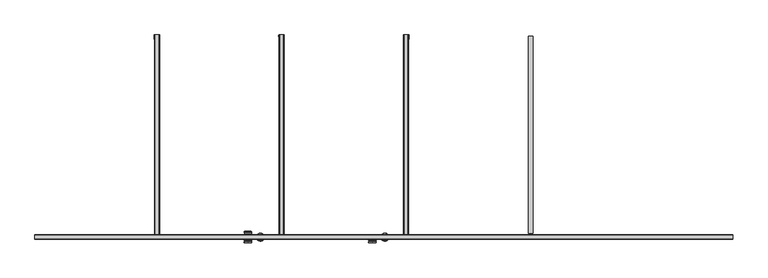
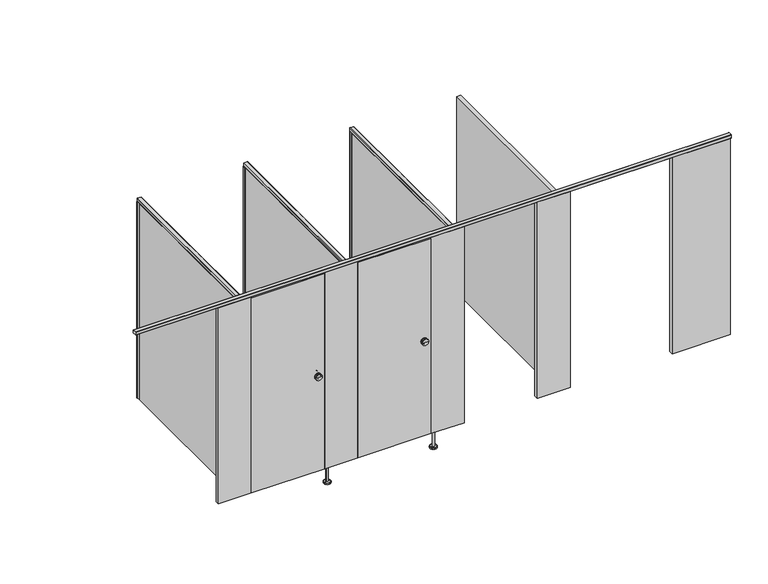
"""IFC4 building model written with IfcOpenShell, lengths in millimetres: proxy geometry, Partition_EuroStyle-Bradley_Corp-ADA-4StandardStall-NEP-LOFT : Partition_EuroStyle-Bradley_Corp-ADA-4StandardStall-NEP-LOFT."""

from ifc_helpers import new_model, si_unit, point, frame, frame_2d, origin, place, context, project, spatial, polyline, circle_curve, ellipse_curve, trimmed, segment, composite_curve, outline, extrude, source, transform, mapped, element, save
from ifc_brep_helpers import plane_surface, cylinder_surface, revolved_surface, advanced_brep


def specialty_equipment_0840d314(model_context):
    return source(origin(), model_context, "Body", "SolidModel", [
        advanced_brep(
        [(2449.4201766, -1560.0098174, 1050.0), (2477.9951766, -1560.0098174, 1050.0), (2420.8451766, -1560.0098174, 1050.0), (2477.9951766, -1564.7723174, 1050.0), (2420.8451766, -1564.7723174, 1050.0), (2420.8451766, -1579.0598174, 1050.0), (2477.9951766, -1579.0598174, 1050.0), (2477.9951766, -1583.8223174, 1050.0), (2420.8451766, -1583.8223174, 1050.0), (2422.4326766, -1577.4723174, 1050.0), (2476.4076766, -1577.4723174, 1050.0), (2422.4326766, -1566.3598174, 1050.0), (2476.4076766, -1566.3598174, 1050.0), (2449.4201766, -1585.4098174, 1050.0)],
        [
            (0, 1),
            (1, 2, circle_curve(frame((2449.4201766, -1560.0098174, 1050.0), z_axis=(0.0, 1.0, 0.0), x_axis=(1.0000000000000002, 0.0, 0.0)), 28.575)),
            (2, 0),
            (2, 1, circle_curve(frame((2449.4201766, -1560.0098174, 1050.0), z_axis=(0.0, 1.0, 0.0), x_axis=(1.0000000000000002, 0.0, 0.0)), 28.575)),
            (1, 3),
            (3, 4, circle_curve(frame((2449.4201766, -1564.7723174, 1050.0), z_axis=(0.0, 1.0, 0.0), x_axis=(1.0000000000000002, 0.0, 0.0)), 28.575)),
            (4, 2),
            (4, 3, circle_curve(frame((2449.4201766, -1564.7723174, 1050.0), z_axis=(0.0, 1.0, 0.0), x_axis=(1.0000000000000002, 0.0, 0.0)), 28.575)),
            (5, 6, circle_curve(frame((2449.4201766, -1579.0598174, 1050.0), z_axis=(0.0, -1.0, 0.0), x_axis=(1.0000000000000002, 0.0, 0.0)), 28.575)),
            (6, 7),
            (7, 8, circle_curve(frame((2449.4201766, -1583.8223174, 1050.0), z_axis=(0.0, 1.0, 0.0), x_axis=(1.0000000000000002, 0.0, 0.0)), 28.575)),
            (8, 5),
            (6, 5, circle_curve(frame((2449.4201766, -1579.0598174, 1050.0), z_axis=(0.0, -1.0, 0.0), x_axis=(1.0000000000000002, 0.0, 0.0)), 28.575)),
            (8, 7, circle_curve(frame((2449.4201766, -1583.8223174, 1050.0), z_axis=(0.0, 1.0, 0.0), x_axis=(1.0000000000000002, 0.0, 0.0)), 28.575)),
            (9, 10, circle_curve(frame((2449.4201766, -1577.4723174, 1050.0), z_axis=(0.0, -1.0, 0.0), x_axis=(1.0000000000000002, 0.0, 0.0)), 26.9875)),
            (10, 6, circle_curve(frame((2477.9951766, -1577.4723174, 1050.0), z_axis=(0.0, 0.0, 1.0), x_axis=(1.0000000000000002, 0.0, 0.0)), 1.5875)),
            (5, 9, circle_curve(frame((2420.8451766, -1577.4723174, 1050.0), z_axis=(0.0, 0.0, 1.0), x_axis=(-1.0000000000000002, 0.0, 0.0)), 1.5875)),
            (10, 9, circle_curve(frame((2449.4201766, -1577.4723174, 1050.0), z_axis=(0.0, -1.0, 0.0), x_axis=(1.0000000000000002, 0.0, 0.0)), 26.9875)),
            (11, 12, circle_curve(frame((2449.4201766, -1566.3598174, 1050.0), z_axis=(0.0, -1.0, 0.0), x_axis=(1.0000000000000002, 0.0, 0.0)), 26.9875)),
            (12, 10),
            (9, 11),
            (12, 11, circle_curve(frame((2449.4201766, -1566.3598174, 1050.0), z_axis=(0.0, -1.0, 0.0), x_axis=(1.0000000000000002, 0.0, 0.0)), 26.9875)),
            (3, 12, circle_curve(frame((2477.9951766, -1566.3598174, 1050.0), z_axis=(0.0, 0.0, 1.0), x_axis=(1.0000000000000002, 0.0, 0.0)), 1.5875)),
            (11, 4, circle_curve(frame((2420.8451766, -1566.3598174, 1050.0), z_axis=(0.0, 0.0, 1.0), x_axis=(-1.0000000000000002, 0.0, 0.0)), 1.5875)),
            (7, 13, circle_curve(frame((2453.1143, -1393.9352882, 1050.0), z_axis=(0.0, 0.0, -1.0), x_axis=(1.0000000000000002, 0.0, 0.0)), 191.5101613)),
            (13, 8, circle_curve(frame((2445.7260533, -1393.9352882, 1050.0), z_axis=(0.0, 0.0, -1.0), x_axis=(-1.0000000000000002, 0.0, 0.0)), 191.5101613)),
        ],
        [
            plane_surface(frame((2449.4201766, -1560.0098174, 1050.0), z_axis=(0.0, 1.0, 0.0), x_axis=(1.0, 0.0, 0.0))),
            cylinder_surface(frame((2449.4201766, -1560.0098174, 1050.0), z_axis=(0.0, 1.0000000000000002, 0.0), x_axis=(1.0000000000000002, 0.0, 0.0)), 28.575),
            revolved_surface(trimmed(ellipse_curve(frame((2477.9951766, -1577.4723174, 1050.0), z_axis=(0.0, 0.0, -1.0), x_axis=(1.0000000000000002, 0.0, 0.0)), 1.5875, 1.5875), [point((2477.9951766, -1579.0598174, 1050.0))], [point((2476.4076766, -1577.4723174, 1050.0))], True, "CARTESIAN"), (2449.4201766, -1560.0098174, 1050.0), (0.0, 1.0000000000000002, 0.0)),
            cylinder_surface(frame((2449.4201766, -1560.0098174, 1050.0), z_axis=(0.0, 1.0000000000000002, 0.0), x_axis=(1.0000000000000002, 0.0, 0.0)), 26.9875),
            revolved_surface(trimmed(ellipse_curve(frame((2477.9951766, -1566.3598174, 1050.0), z_axis=(0.0, 0.0, -1.0), x_axis=(1.0000000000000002, 0.0, 0.0)), 1.5875, 1.5875), [point((2476.4076766, -1566.3598174, 1050.0))], [point((2477.9951766, -1564.7723174, 1050.0))], True, "CARTESIAN"), (2449.4201766, -1560.0098174, 1050.0), (0.0, 1.0000000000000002, 0.0)),
            revolved_surface(trimmed(ellipse_curve(frame((2453.1143, -1393.9352882, 1050.0), z_axis=(0.0, 0.0, 1.0), x_axis=(1.0000000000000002, 0.0, 0.0)), 191.5101613, 191.5101613), [point((2449.4201766, -1585.4098174, 1050.0))], [point((2477.9951766, -1583.8223174, 1050.0))], True, "CARTESIAN"), (2449.4201766, -1560.0098174, 1050.0), (0.0, 1.0000000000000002, 0.0)),
        ],
        [
            (0, [[1, 2, 3]]),
            (0, [[-3, 4, -1]]),
            (1, [[-2, 5, 6, 7]]),
            (1, [[-4, -7, 8, -5]]),
            (1, [[9, 10, 11, 12]]),
            (1, [[13, -12, 14, -10]]),
            (2, [[15, 16, -9, 17]]),
            (2, [[18, -17, -13, -16]]),
            (3, [[19, 20, -15, 21]]),
            (3, [[22, -21, -18, -20]]),
            (4, [[-6, 23, -19, 24]]),
            (4, [[-8, -24, -22, -23]]),
            (5, [[-11, 25, 26]]),
            (5, [[-14, -26, -25]]),
        ],
    ),
        extrude(outline(polyline([(1857.8170903, -1523.9894923), (2512.9201766, -1523.9894923), (2512.9201766, -1560.0098174), (1857.8170903, -1560.0098174), (1857.8170903, -1523.9894923)])), frame((0.0, 0.0, 150.0), z_axis=(0.0, 0.0, 1.0), x_axis=(1.0, 0.0, 0.0)), (0.0, 0.0, 1.0), 1846.0),
        extrude(outline(composite_curve([segment(polyline([(2685.7288796, -32.5000002), (2685.2205405, -2.02918)]), True, "CONTINUOUS"), segment(trimmed(circle_curve(frame_2d((2687.2497205, -2.02918)), 2.02918), [point((2685.2205405, -2.02918))], [point((2687.2497205, 0.0))], False, "CARTESIAN"), True, "CONTINUOUS"), segment(polyline([(2687.2497205, 0.0), (2725.1909298, 0.0)]), True, "CONTINUOUS"), segment(trimmed(circle_curve(frame_2d((2725.1909298, -2.02918)), 2.02918), [point((2725.1909298, 0.0))], [point((2727.2201098, -2.02918))], False, "CARTESIAN"), True, "CONTINUOUS"), segment(polyline([(2727.2201098, -2.02918), (2726.7117707, -32.5000002), (2725.2131851, -32.5000002)]), True, "CONTINUOUS"), segment(trimmed(circle_curve(frame_2d((2725.2167525, -31.5009082)), 0.9990984), [point((2725.2131851, -32.5000002))], [point((2724.7430999, -30.6212202))], False, "CARTESIAN"), True, "CONTINUOUS"), segment(polyline([(2724.7430999, -30.6212202), (2724.8642099, -23.3575702)]), True, "CONTINUOUS"), segment(trimmed(circle_curve(frame_2d((2725.3817558, -22.5000551)), 1.0015917), [point((2724.8642099, -23.3575702))], [point((2724.8926587, -21.6260013))], False, "CARTESIAN"), True, "CONTINUOUS"), segment(polyline([(2724.8926587, -21.6260013), (2725.18671, -4.0)]), True, "CONTINUOUS"), segment(trimmed(circle_curve(frame_2d((2723.1870154, -3.9990939)), 1.9996948), [point((2725.18671, -4.0))], [point((2723.1379958, -2.0))], True, "CARTESIAN"), True, "CONTINUOUS"), segment(polyline([(2723.1379958, -2.0), (2689.2536968, -2.0)]), True, "CONTINUOUS"), segment(trimmed(circle_curve(frame_2d((2689.2536968, -4.0002204)), 2.0002204), [point((2689.2536968, -2.0))], [point((2687.2535049, -3.9895469))], True, "CARTESIAN"), True, "CONTINUOUS"), segment(polyline([(2687.2535049, -3.9895469), (2687.5475604, -21.6257602)]), True, "CONTINUOUS"), segment(trimmed(circle_curve(frame_2d((2687.0588945, -22.5000551)), 1.0015917), [point((2687.5475604, -21.6257602))], [point((2687.5764404, -23.3575702))], False, "CARTESIAN"), True, "CONTINUOUS"), segment(polyline([(2687.5764404, -23.3575702), (2687.6975504, -30.6212202)]), True, "CONTINUOUS"), segment(trimmed(circle_curve(frame_2d((2687.2238978, -31.5009082)), 0.9990984), [point((2687.6975504, -30.6212202))], [point((2687.2274652, -32.5000002))], False, "CARTESIAN"), True, "CONTINUOUS"), segment(polyline([(2687.2274652, -32.5000002), (2685.7288796, -32.5000002)]), True, "CONTINUOUS")], self_intersect=False)), frame((0.0, 0.0, 150.0), z_axis=(0.0, 0.0, 1.0), x_axis=(1.0, 0.0, 0.0)), (0.0, 0.0, 1.0), 1855.0),
        extrude(outline(composite_curve([segment(polyline([(2032.9666591, 2688.2203701), (2005.7492965, 2688.6741806)]), True, "CONTINUOUS"), segment(trimmed(circle_curve(frame_2d((2005.762, 2689.4360747)), 0.762), [point((2005.7492965, 2688.6741806))], [point((2005.0, 2689.4360747))], False, "CARTESIAN"), True, "CONTINUOUS"), segment(polyline([(2005.0, 2689.4360747), (2005.0, 2722.9733505)]), True, "CONTINUOUS"), segment(trimmed(circle_curve(frame_2d((2005.79375, 2722.9733505)), 0.79375), [point((2005.0, 2722.9733505))], [point((2005.7805172, 2723.7669902))], False, "CARTESIAN"), True, "CONTINUOUS"), segment(polyline([(2005.7805172, 2723.7669902), (2032.9666591, 2724.2202802)]), True, "CONTINUOUS"), segment(trimmed(circle_curve(frame_2d((2033.0000015, 2722.2205597)), 1.9999985), [point((2032.9666591, 2724.2202802))], [point((2035.0, 2722.2205597))], False, "CARTESIAN"), True, "CONTINUOUS"), segment(polyline([(2035.0, 2722.2205597), (2035.0, 2690.2200907)]), True, "CONTINUOUS"), segment(trimmed(circle_curve(frame_2d((2033.0000015, 2690.2200907)), 1.9999985), [point((2035.0, 2690.2200907))], [point((2032.9666591, 2688.2203701))], False, "CARTESIAN"), True, "CONTINUOUS")], self_intersect=False)), frame((0.0, -1524.0, 0.0), z_axis=(0.0, 1.0, 0.0), x_axis=(0.0, 0.0, 1.0)), (0.0, 0.0, 1.0), 1524.0),
        advanced_brep(
        [(2535.8453255, -1541.9996549, 150.0000008), (2553.8453248, -1541.9996549, 150.0000008), (2553.8453248, -1541.9996549, 12.0000001), (2535.8453255, -1541.9996549, 12.0000001), (2544.8453251, -1541.9996549, 150.0000008), (2513.8453262, -1541.9996549, 0.0), (2575.8453241, -1541.9996549, 0.0), (2544.8453251, -1541.9996549, 0.0), (2513.8453262, -1541.9996549, 10.0000001), (2575.8453241, -1541.9996549, 10.0000001), (2515.8477381, -1541.9996549, 12.0000001), (2573.8429122, -1541.9996549, 12.0000001)],
        [
            (0, 1, circle_curve(frame((2544.8453251, -1541.9996549, 150.0000008), z_axis=(0.0, 0.0, -1.0), x_axis=(1.0, 0.0, 0.0)), 8.9999997)),
            (1, 2),
            (2, 3, circle_curve(frame((2544.8453251, -1541.9996549, 12.0000001), z_axis=(0.0, 0.0, 1.0), x_axis=(1.0, 0.0, 0.0)), 8.9999997)),
            (3, 0),
            (1, 0, circle_curve(frame((2544.8453251, -1541.9996549, 150.0000008), z_axis=(0.0, 0.0, -1.0), x_axis=(1.0, 0.0, 0.0)), 8.9999997)),
            (3, 2, circle_curve(frame((2544.8453251, -1541.9996549, 12.0000001), z_axis=(0.0, 0.0, 1.0), x_axis=(1.0, 0.0, 0.0)), 8.9999997)),
            (4, 1),
            (0, 4),
            (5, 6, circle_curve(frame((2544.8453251, -1541.9996549, 0.0), z_axis=(0.0, 0.0, -1.0), x_axis=(1.0, 0.0, 0.0)), 30.9999989)),
            (6, 7),
            (7, 5),
            (6, 5, circle_curve(frame((2544.8453251, -1541.9996549, 0.0), z_axis=(0.0, 0.0, -1.0), x_axis=(1.0, 0.0, 0.0)), 30.9999989)),
            (8, 9, circle_curve(frame((2544.8453251, -1541.9996549, 10.0000001), z_axis=(0.0, 0.0, -1.0), x_axis=(1.0, 0.0, 0.0)), 30.9999989)),
            (9, 6),
            (5, 8),
            (9, 8, circle_curve(frame((2544.8453251, -1541.9996549, 10.0000001), z_axis=(0.0, 0.0, -1.0), x_axis=(1.0, 0.0, 0.0)), 30.9999989)),
            (10, 11, circle_curve(frame((2544.8453251, -1541.9996549, 12.0000001), z_axis=(0.0, 0.0, -1.0), x_axis=(1.0, 0.0, 0.0)), 28.997587)),
            (11, 9),
            (8, 10),
            (11, 10, circle_curve(frame((2544.8453251, -1541.9996549, 12.0000001), z_axis=(0.0, 0.0, -1.0), x_axis=(1.0, 0.0, 0.0)), 28.997587)),
            (2, 11),
            (10, 3),
        ],
        [
            cylinder_surface(frame((2544.8453251, -1541.9996549, 0.0), z_axis=(0.0, 0.0, 1.0), x_axis=(1.0, 0.0, 0.0)), 8.9999997),
            plane_surface(frame((2544.8453251, -1541.9996549, 150.0000008), z_axis=(0.0, 0.0, 1.0), x_axis=(1.0, 0.0, 0.0))),
            plane_surface(frame((2544.8453251, -1541.9996549, 0.0), z_axis=(0.0, 0.0, -1.0), x_axis=(1.0, 0.0, 0.0))),
            cylinder_surface(frame((2544.8453251, -1541.9996549, 0.0), z_axis=(0.0, 0.0, 1.0), x_axis=(1.0, 0.0, 0.0)), 30.9999989),
            revolved_surface(polyline([(2575.8453241, -1541.9996549, 10.0000001), (2573.8429122, -1541.9996549, 12.0000001)]), (2544.8453251, -1541.9996549, 0.0), (0.0, 0.0, 1.0)),
            plane_surface(frame((2544.8453251, -1541.9996549, 12.0000001), z_axis=(0.0, 0.0, 1.0), x_axis=(1.0, 0.0, 0.0))),
        ],
        [
            (0, [[1, 2, 3, 4]]),
            (0, [[5, -4, 6, -2]]),
            (1, [[7, -1, 8]]),
            (1, [[-8, -5, -7]]),
            (2, [[9, 10, 11]]),
            (2, [[12, -11, -10]]),
            (3, [[13, 14, -9, 15]]),
            (3, [[16, -15, -12, -14]]),
            (4, [[17, 18, -13, 19]]),
            (4, [[20, -19, -16, -18]]),
            (5, [[-3, 21, -17, 22]]),
            (5, [[-6, -22, -20, -21]]),
        ],
    ),
        advanced_brep(
        [(1470.4451766, -1524.0098174, 1050.0), (1527.5951766, -1524.0098174, 1050.0), (1499.0201766, -1524.0098174, 1050.0), (1470.4451766, -1519.2473174, 1050.0), (1527.5951766, -1519.2473174, 1050.0), (1470.4451766, -1500.1973174, 1050.0), (1527.5951766, -1500.1973174, 1050.0), (1527.5951766, -1504.9598174, 1050.0), (1470.4451766, -1504.9598174, 1050.0), (1526.0076766, -1506.5473174, 1050.0), (1472.0326766, -1506.5473174, 1050.0), (1526.0076766, -1517.6598174, 1050.0), (1472.0326766, -1517.6598174, 1050.0), (1499.0201766, -1498.6098174, 1050.0)],
        [
            (0, 1, circle_curve(frame((1499.0201766, -1524.0098174, 1050.0), z_axis=(0.0, -1.0, 0.0), x_axis=(1.0000000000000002, 0.0, 0.0)), 28.575)),
            (1, 2),
            (2, 0),
            (1, 0, circle_curve(frame((1499.0201766, -1524.0098174, 1050.0), z_axis=(0.0, -1.0, 0.0), x_axis=(1.0000000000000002, 0.0, 0.0)), 28.575)),
            (3, 4, circle_curve(frame((1499.0201766, -1519.2473174, 1050.0), z_axis=(0.0, -1.0, 0.0), x_axis=(1.0000000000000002, 0.0, 0.0)), 28.575)),
            (4, 1),
            (0, 3),
            (4, 3, circle_curve(frame((1499.0201766, -1519.2473174, 1050.0), z_axis=(0.0, -1.0, 0.0), x_axis=(1.0000000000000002, 0.0, 0.0)), 28.575)),
            (5, 6, circle_curve(frame((1499.0201766, -1500.1973174, 1050.0), z_axis=(0.0, -1.0, 0.0), x_axis=(1.0000000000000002, 0.0, 0.0)), 28.575)),
            (6, 7),
            (7, 8, circle_curve(frame((1499.0201766, -1504.9598174, 1050.0), z_axis=(0.0, 1.0, 0.0), x_axis=(1.0000000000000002, 0.0, 0.0)), 28.575)),
            (8, 5),
            (6, 5, circle_curve(frame((1499.0201766, -1500.1973174, 1050.0), z_axis=(0.0, -1.0, 0.0), x_axis=(1.0000000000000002, 0.0, 0.0)), 28.575)),
            (8, 7, circle_curve(frame((1499.0201766, -1504.9598174, 1050.0), z_axis=(0.0, 1.0, 0.0), x_axis=(1.0000000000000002, 0.0, 0.0)), 28.575)),
            (7, 9, circle_curve(frame((1527.5951766, -1506.5473174, 1050.0), z_axis=(0.0, 0.0, 1.0), x_axis=(1.0000000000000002, 0.0, 0.0)), 1.5875)),
            (9, 10, circle_curve(frame((1499.0201766, -1506.5473174, 1050.0), z_axis=(0.0, 1.0, 0.0), x_axis=(1.0000000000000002, 0.0, 0.0)), 26.9875)),
            (10, 8, circle_curve(frame((1470.4451766, -1506.5473174, 1050.0), z_axis=(0.0, 0.0, 1.0), x_axis=(-1.0000000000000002, 0.0, 0.0)), 1.5875)),
            (10, 9, circle_curve(frame((1499.0201766, -1506.5473174, 1050.0), z_axis=(0.0, 1.0, 0.0), x_axis=(1.0000000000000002, 0.0, 0.0)), 26.9875)),
            (9, 11),
            (11, 12, circle_curve(frame((1499.0201766, -1517.6598174, 1050.0), z_axis=(0.0, 1.0, 0.0), x_axis=(1.0000000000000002, 0.0, 0.0)), 26.9875)),
            (12, 10),
            (12, 11, circle_curve(frame((1499.0201766, -1517.6598174, 1050.0), z_axis=(0.0, 1.0, 0.0), x_axis=(1.0000000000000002, 0.0, 0.0)), 26.9875)),
            (11, 4, circle_curve(frame((1527.5951766, -1517.6598174, 1050.0), z_axis=(0.0, 0.0, 1.0), x_axis=(1.0000000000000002, 0.0, 0.0)), 1.5875)),
            (3, 12, circle_curve(frame((1470.4451766, -1517.6598174, 1050.0), z_axis=(0.0, 0.0, 1.0), x_axis=(-1.0000000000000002, 0.0, 0.0)), 1.5875)),
            (13, 6, circle_curve(frame((1502.7143, -1690.0843466, 1050.0), z_axis=(0.0, 0.0, -1.0), x_axis=(1.0000000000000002, 0.0, 0.0)), 191.5101613)),
            (5, 13, circle_curve(frame((1495.3260533, -1690.0843466, 1050.0), z_axis=(0.0, 0.0, -1.0), x_axis=(-1.0000000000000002, 0.0, 0.0)), 191.5101613)),
        ],
        [
            plane_surface(frame((1499.0201766, -1524.0098174, 1050.0), z_axis=(0.0, -1.0, 0.0), x_axis=(1.0, 0.0, 0.0))),
            cylinder_surface(frame((1499.0201766, -1524.0098174, 1050.0), z_axis=(0.0, 1.0000000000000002, 0.0), x_axis=(1.0000000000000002, 0.0, 0.0)), 28.575),
            revolved_surface(trimmed(ellipse_curve(frame((1527.5951766, -1506.5473174, 1050.0), z_axis=(0.0, 0.0, -1.0), x_axis=(1.0000000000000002, 0.0, 0.0)), 1.5875, 1.5875), [point((1526.0076766, -1506.5473174, 1050.0))], [point((1527.5951766, -1504.9598174, 1050.0))], True, "CARTESIAN"), (1499.0201766, -1524.0098174, 1050.0), (0.0, 1.0000000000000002, 0.0)),
            cylinder_surface(frame((1499.0201766, -1524.0098174, 1050.0), z_axis=(0.0, 1.0000000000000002, 0.0), x_axis=(1.0000000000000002, 0.0, 0.0)), 26.9875),
            revolved_surface(trimmed(ellipse_curve(frame((1527.5951766, -1517.6598174, 1050.0), z_axis=(0.0, 0.0, -1.0), x_axis=(1.0000000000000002, 0.0, 0.0)), 1.5875, 1.5875), [point((1527.5951766, -1519.2473174, 1050.0))], [point((1526.0076766, -1517.6598174, 1050.0))], True, "CARTESIAN"), (1499.0201766, -1524.0098174, 1050.0), (0.0, 1.0000000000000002, 0.0)),
            revolved_surface(trimmed(ellipse_curve(frame((1502.7143, -1690.0843466, 1050.0), z_axis=(0.0, 0.0, 1.0), x_axis=(1.0000000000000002, 0.0, 0.0)), 191.5101613, 191.5101613), [point((1527.5951766, -1500.1973174, 1050.0))], [point((1499.0201766, -1498.6098174, 1050.0))], True, "CARTESIAN"), (1499.0201766, -1524.0098174, 1050.0), (0.0, 1.0000000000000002, 0.0)),
        ],
        [
            (0, [[1, 2, 3]]),
            (0, [[4, -3, -2]]),
            (1, [[5, 6, -1, 7]]),
            (1, [[8, -7, -4, -6]]),
            (1, [[9, 10, 11, 12]]),
            (1, [[13, -12, 14, -10]]),
            (2, [[-11, 15, 16, 17]]),
            (2, [[-14, -17, 18, -15]]),
            (3, [[-16, 19, 20, 21]]),
            (3, [[-18, -21, 22, -19]]),
            (4, [[-20, 23, -5, 24]]),
            (4, [[-22, -24, -8, -23]]),
            (5, [[25, -9, 26]]),
            (5, [[-26, -13, -25]]),
        ],
    ),
        advanced_brep(
        [(1499.0201766, -1560.0098174, 1050.0), (1527.5951766, -1560.0098174, 1050.0), (1470.4451766, -1560.0098174, 1050.0), (1527.5951766, -1564.7723174, 1050.0), (1470.4451766, -1564.7723174, 1050.0), (1470.4451766, -1579.0598174, 1050.0), (1527.5951766, -1579.0598174, 1050.0), (1527.5951766, -1583.8223174, 1050.0), (1470.4451766, -1583.8223174, 1050.0), (1472.0326766, -1577.4723174, 1050.0), (1526.0076766, -1577.4723174, 1050.0), (1472.0326766, -1566.3598174, 1050.0), (1526.0076766, -1566.3598174, 1050.0), (1499.0201766, -1585.4098174, 1050.0)],
        [
            (0, 1),
            (1, 2, circle_curve(frame((1499.0201766, -1560.0098174, 1050.0), z_axis=(0.0, 1.0, 0.0), x_axis=(1.0000000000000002, 0.0, 0.0)), 28.575)),
            (2, 0),
            (2, 1, circle_curve(frame((1499.0201766, -1560.0098174, 1050.0), z_axis=(0.0, 1.0, 0.0), x_axis=(1.0000000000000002, 0.0, 0.0)), 28.575)),
            (1, 3),
            (3, 4, circle_curve(frame((1499.0201766, -1564.7723174, 1050.0), z_axis=(0.0, 1.0, 0.0), x_axis=(1.0000000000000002, 0.0, 0.0)), 28.575)),
            (4, 2),
            (4, 3, circle_curve(frame((1499.0201766, -1564.7723174, 1050.0), z_axis=(0.0, 1.0, 0.0), x_axis=(1.0000000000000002, 0.0, 0.0)), 28.575)),
            (5, 6, circle_curve(frame((1499.0201766, -1579.0598174, 1050.0), z_axis=(0.0, -1.0, 0.0), x_axis=(1.0000000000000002, 0.0, 0.0)), 28.575)),
            (6, 7),
            (7, 8, circle_curve(frame((1499.0201766, -1583.8223174, 1050.0), z_axis=(0.0, 1.0, 0.0), x_axis=(1.0000000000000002, 0.0, 0.0)), 28.575)),
            (8, 5),
            (6, 5, circle_curve(frame((1499.0201766, -1579.0598174, 1050.0), z_axis=(0.0, -1.0, 0.0), x_axis=(1.0000000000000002, 0.0, 0.0)), 28.575)),
            (8, 7, circle_curve(frame((1499.0201766, -1583.8223174, 1050.0), z_axis=(0.0, 1.0, 0.0), x_axis=(1.0000000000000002, 0.0, 0.0)), 28.575)),
            (9, 10, circle_curve(frame((1499.0201766, -1577.4723174, 1050.0), z_axis=(0.0, -1.0, 0.0), x_axis=(1.0000000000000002, 0.0, 0.0)), 26.9875)),
            (10, 6, circle_curve(frame((1527.5951766, -1577.4723174, 1050.0), z_axis=(0.0, 0.0, 1.0), x_axis=(1.0000000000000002, 0.0, 0.0)), 1.5875)),
            (5, 9, circle_curve(frame((1470.4451766, -1577.4723174, 1050.0), z_axis=(0.0, 0.0, 1.0), x_axis=(-1.0000000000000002, 0.0, 0.0)), 1.5875)),
            (10, 9, circle_curve(frame((1499.0201766, -1577.4723174, 1050.0), z_axis=(0.0, -1.0, 0.0), x_axis=(1.0000000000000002, 0.0, 0.0)), 26.9875)),
            (11, 12, circle_curve(frame((1499.0201766, -1566.3598174, 1050.0), z_axis=(0.0, -1.0, 0.0), x_axis=(1.0000000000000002, 0.0, 0.0)), 26.9875)),
            (12, 10),
            (9, 11),
            (12, 11, circle_curve(frame((1499.0201766, -1566.3598174, 1050.0), z_axis=(0.0, -1.0, 0.0), x_axis=(1.0000000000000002, 0.0, 0.0)), 26.9875)),
            (3, 12, circle_curve(frame((1527.5951766, -1566.3598174, 1050.0), z_axis=(0.0, 0.0, 1.0), x_axis=(1.0000000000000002, 0.0, 0.0)), 1.5875)),
            (11, 4, circle_curve(frame((1470.4451766, -1566.3598174, 1050.0), z_axis=(0.0, 0.0, 1.0), x_axis=(-1.0000000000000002, 0.0, 0.0)), 1.5875)),
            (7, 13, circle_curve(frame((1502.7143, -1393.9352882, 1050.0), z_axis=(0.0, 0.0, -1.0), x_axis=(1.0000000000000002, 0.0, 0.0)), 191.5101613)),
            (13, 8, circle_curve(frame((1495.3260533, -1393.9352882, 1050.0), z_axis=(0.0, 0.0, -1.0), x_axis=(-1.0000000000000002, 0.0, 0.0)), 191.5101613)),
        ],
        [
            plane_surface(frame((1499.0201766, -1560.0098174, 1050.0), z_axis=(0.0, 1.0, 0.0), x_axis=(1.0, 0.0, 0.0))),
            cylinder_surface(frame((1499.0201766, -1560.0098174, 1050.0), z_axis=(0.0, 1.0000000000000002, 0.0), x_axis=(1.0000000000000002, 0.0, 0.0)), 28.575),
            revolved_surface(trimmed(ellipse_curve(frame((1527.5951766, -1577.4723174, 1050.0), z_axis=(0.0, 0.0, -1.0), x_axis=(1.0000000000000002, 0.0, 0.0)), 1.5875, 1.5875), [point((1527.5951766, -1579.0598174, 1050.0))], [point((1526.0076766, -1577.4723174, 1050.0))], True, "CARTESIAN"), (1499.0201766, -1560.0098174, 1050.0), (0.0, 1.0000000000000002, 0.0)),
            cylinder_surface(frame((1499.0201766, -1560.0098174, 1050.0), z_axis=(0.0, 1.0000000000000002, 0.0), x_axis=(1.0000000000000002, 0.0, 0.0)), 26.9875),
            revolved_surface(trimmed(ellipse_curve(frame((1527.5951766, -1566.3598174, 1050.0), z_axis=(0.0, 0.0, -1.0), x_axis=(1.0000000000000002, 0.0, 0.0)), 1.5875, 1.5875), [point((1526.0076766, -1566.3598174, 1050.0))], [point((1527.5951766, -1564.7723174, 1050.0))], True, "CARTESIAN"), (1499.0201766, -1560.0098174, 1050.0), (0.0, 1.0000000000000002, 0.0)),
            revolved_surface(trimmed(ellipse_curve(frame((1502.7143, -1393.9352882, 1050.0), z_axis=(0.0, 0.0, 1.0), x_axis=(1.0000000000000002, 0.0, 0.0)), 191.5101613, 191.5101613), [point((1499.0201766, -1585.4098174, 1050.0))], [point((1527.5951766, -1583.8223174, 1050.0))], True, "CARTESIAN"), (1499.0201766, -1560.0098174, 1050.0), (0.0, 1.0000000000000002, 0.0)),
        ],
        [
            (0, [[1, 2, 3]]),
            (0, [[-3, 4, -1]]),
            (1, [[-2, 5, 6, 7]]),
            (1, [[-4, -7, 8, -5]]),
            (1, [[9, 10, 11, 12]]),
            (1, [[13, -12, 14, -10]]),
            (2, [[15, 16, -9, 17]]),
            (2, [[18, -17, -13, -16]]),
            (3, [[19, 20, -15, 21]]),
            (3, [[22, -21, -18, -20]]),
            (4, [[-6, 23, -19, 24]]),
            (4, [[-8, -24, -22, -23]]),
            (5, [[-11, 25, 26]]),
            (5, [[-14, -26, -25]]),
        ],
    ),
        extrude(outline(polyline([(907.4170903, -1523.9894923), (1562.5201766, -1523.9894923), (1562.5201766, -1560.0098174), (907.4170903, -1560.0098174), (907.4170903, -1523.9894923)])), frame((0.0, 0.0, 150.0), z_axis=(0.0, 0.0, 1.0), x_axis=(1.0, 0.0, 0.0)), (0.0, 0.0, 1.0), 1846.0),
        extrude(outline(composite_curve([segment(polyline([(1735.3288796, -32.5000002), (1734.8205405, -2.02918)]), True, "CONTINUOUS"), segment(trimmed(circle_curve(frame_2d((1736.8497205, -2.02918)), 2.02918), [point((1734.8205405, -2.02918))], [point((1736.8497205, 0.0))], False, "CARTESIAN"), True, "CONTINUOUS"), segment(polyline([(1736.8497205, 0.0), (1774.7909298, 0.0)]), True, "CONTINUOUS"), segment(trimmed(circle_curve(frame_2d((1774.7909298, -2.02918)), 2.02918), [point((1774.7909298, 0.0))], [point((1776.8201098, -2.02918))], False, "CARTESIAN"), True, "CONTINUOUS"), segment(polyline([(1776.8201098, -2.02918), (1776.3117707, -32.5000002), (1774.8131851, -32.5000002)]), True, "CONTINUOUS"), segment(trimmed(circle_curve(frame_2d((1774.8167525, -31.5009082)), 0.9990984), [point((1774.8131851, -32.5000002))], [point((1774.3430999, -30.6212202))], False, "CARTESIAN"), True, "CONTINUOUS"), segment(polyline([(1774.3430999, -30.6212202), (1774.4642099, -23.3575702)]), True, "CONTINUOUS"), segment(trimmed(circle_curve(frame_2d((1774.9817558, -22.5000551)), 1.0015917), [point((1774.4642099, -23.3575702))], [point((1774.4926587, -21.6260013))], False, "CARTESIAN"), True, "CONTINUOUS"), segment(polyline([(1774.4926587, -21.6260013), (1774.78671, -4.0)]), True, "CONTINUOUS"), segment(trimmed(circle_curve(frame_2d((1772.7870154, -3.9990939)), 1.9996948), [point((1774.78671, -4.0))], [point((1772.7379958, -2.0))], True, "CARTESIAN"), True, "CONTINUOUS"), segment(polyline([(1772.7379958, -2.0), (1738.8536968, -2.0)]), True, "CONTINUOUS"), segment(trimmed(circle_curve(frame_2d((1738.8536968, -4.0002204)), 2.0002204), [point((1738.8536968, -2.0))], [point((1736.8535049, -3.9895469))], True, "CARTESIAN"), True, "CONTINUOUS"), segment(polyline([(1736.8535049, -3.9895469), (1737.1475604, -21.6257602)]), True, "CONTINUOUS"), segment(trimmed(circle_curve(frame_2d((1736.6588945, -22.5000551)), 1.0015917), [point((1737.1475604, -21.6257602))], [point((1737.1764404, -23.3575702))], False, "CARTESIAN"), True, "CONTINUOUS"), segment(polyline([(1737.1764404, -23.3575702), (1737.2975504, -30.6212202)]), True, "CONTINUOUS"), segment(trimmed(circle_curve(frame_2d((1736.8238978, -31.5009082)), 0.9990984), [point((1737.2975504, -30.6212202))], [point((1736.8274652, -32.5000002))], False, "CARTESIAN"), True, "CONTINUOUS"), segment(polyline([(1736.8274652, -32.5000002), (1735.3288796, -32.5000002)]), True, "CONTINUOUS")], self_intersect=False)), frame((0.0, 0.0, 150.0), z_axis=(0.0, 0.0, 1.0), x_axis=(1.0, 0.0, 0.0)), (0.0, 0.0, 1.0), 1855.0),
        extrude(outline(composite_curve([segment(polyline([(784.918717, -32.5000002), (784.4103779, -2.02918)]), True, "CONTINUOUS"), segment(trimmed(circle_curve(frame_2d((786.4395579, -2.02918)), 2.02918), [point((784.4103779, -2.02918))], [point((786.4395579, 0.0))], False, "CARTESIAN"), True, "CONTINUOUS"), segment(polyline([(786.4395579, 0.0), (824.3807672, 0.0)]), True, "CONTINUOUS"), segment(trimmed(circle_curve(frame_2d((824.3807672, -2.02918)), 2.02918), [point((824.3807672, 0.0))], [point((826.4099473, -2.02918))], False, "CARTESIAN"), True, "CONTINUOUS"), segment(polyline([(826.4099473, -2.02918), (825.9016081, -32.5000002), (824.4030225, -32.5000002)]), True, "CONTINUOUS"), segment(trimmed(circle_curve(frame_2d((824.4065899, -31.5009082)), 0.9990984), [point((824.4030225, -32.5000002))], [point((823.9329373, -30.6212202))], False, "CARTESIAN"), True, "CONTINUOUS"), segment(polyline([(823.9329373, -30.6212202), (824.0540473, -23.3575702)]), True, "CONTINUOUS"), segment(trimmed(circle_curve(frame_2d((824.5715932, -22.5000551)), 1.0015917), [point((824.0540473, -23.3575702))], [point((824.0824961, -21.6260013))], False, "CARTESIAN"), True, "CONTINUOUS"), segment(polyline([(824.0824961, -21.6260013), (824.3765475, -4.0)]), True, "CONTINUOUS"), segment(trimmed(circle_curve(frame_2d((822.3768528, -3.9990939)), 1.9996948), [point((824.3765475, -4.0))], [point((822.3278332, -2.0))], True, "CARTESIAN"), True, "CONTINUOUS"), segment(polyline([(822.3278332, -2.0), (788.4435342, -2.0)]), True, "CONTINUOUS"), segment(trimmed(circle_curve(frame_2d((788.4435342, -4.0002204)), 2.0002204), [point((788.4435342, -2.0))], [point((786.4433424, -3.9895469))], True, "CARTESIAN"), True, "CONTINUOUS"), segment(polyline([(786.4433424, -3.9895469), (786.7373979, -21.6257602)]), True, "CONTINUOUS"), segment(trimmed(circle_curve(frame_2d((786.248732, -22.5000551)), 1.0015917), [point((786.7373979, -21.6257602))], [point((786.7662779, -23.3575702))], False, "CARTESIAN"), True, "CONTINUOUS"), segment(polyline([(786.7662779, -23.3575702), (786.8873879, -30.6212202)]), True, "CONTINUOUS"), segment(trimmed(circle_curve(frame_2d((786.4137352, -31.5009082)), 0.9990984), [point((786.8873879, -30.6212202))], [point((786.4173026, -32.5000002))], False, "CARTESIAN"), True, "CONTINUOUS"), segment(polyline([(786.4173026, -32.5000002), (784.918717, -32.5000002)]), True, "CONTINUOUS")], self_intersect=False)), frame((0.0, 0.0, 150.0), z_axis=(0.0, 0.0, 1.0), x_axis=(1.0, 0.0, 0.0)), (0.0, 0.0, 1.0), 1855.0),
        extrude(outline(composite_curve([segment(polyline([(2032.9666591, 1737.8203701), (2005.7492965, 1738.2741806)]), True, "CONTINUOUS"), segment(trimmed(circle_curve(frame_2d((2005.762, 1739.0360747)), 0.762), [point((2005.7492965, 1738.2741806))], [point((2005.0, 1739.0360747))], False, "CARTESIAN"), True, "CONTINUOUS"), segment(polyline([(2005.0, 1739.0360747), (2005.0, 1772.5733505)]), True, "CONTINUOUS"), segment(trimmed(circle_curve(frame_2d((2005.79375, 1772.5733505)), 0.79375), [point((2005.0, 1772.5733505))], [point((2005.7805172, 1773.3669902))], False, "CARTESIAN"), True, "CONTINUOUS"), segment(polyline([(2005.7805172, 1773.3669902), (2032.9666591, 1773.8202802)]), True, "CONTINUOUS"), segment(trimmed(circle_curve(frame_2d((2033.0000015, 1771.8205597)), 1.9999985), [point((2032.9666591, 1773.8202802))], [point((2035.0, 1771.8205597))], False, "CARTESIAN"), True, "CONTINUOUS"), segment(polyline([(2035.0, 1771.8205597), (2035.0, 1739.8200907)]), True, "CONTINUOUS"), segment(trimmed(circle_curve(frame_2d((2033.0000015, 1739.8200907)), 1.9999985), [point((2035.0, 1739.8200907))], [point((2032.9666591, 1737.8203701))], False, "CARTESIAN"), True, "CONTINUOUS")], self_intersect=False)), frame((0.0, -1524.0, 0.0), z_axis=(0.0, 1.0, 0.0), x_axis=(0.0, 0.0, 1.0)), (0.0, 0.0, 1.0), 1524.0),
        extrude(outline(composite_curve([segment(polyline([(-1523.9996998, 2032.9666591), (-1524.4535103, 2005.7492965)]), True, "CONTINUOUS"), segment(trimmed(circle_curve(frame_2d((-1525.2154044, 2005.762)), 0.762), [point((-1524.4535103, 2005.7492965))], [point((-1525.2154044, 2005.0))], False, "CARTESIAN"), True, "CONTINUOUS"), segment(polyline([(-1525.2154044, 2005.0), (-1558.7526802, 2005.0)]), True, "CONTINUOUS"), segment(trimmed(circle_curve(frame_2d((-1558.7526802, 2005.79375)), 0.79375), [point((-1558.7526802, 2005.0))], [point((-1559.5463199, 2005.7805172))], False, "CARTESIAN"), True, "CONTINUOUS"), segment(polyline([(-1559.5463199, 2005.7805172), (-1559.9996099, 2032.9666591)]), True, "CONTINUOUS"), segment(trimmed(circle_curve(frame_2d((-1557.9998894, 2033.0000015)), 1.9999985), [point((-1559.9996099, 2032.9666591))], [point((-1557.9998894, 2035.0))], False, "CARTESIAN"), True, "CONTINUOUS"), segment(polyline([(-1557.9998894, 2035.0), (-1525.9994204, 2035.0)]), True, "CONTINUOUS"), segment(trimmed(circle_curve(frame_2d((-1525.9994204, 2033.0000015)), 1.9999985), [point((-1525.9994204, 2035.0))], [point((-1523.9996998, 2032.9666591))], False, "CARTESIAN"), True, "CONTINUOUS")], self_intersect=False)), frame((-127.0, 0.0, 0.0), z_axis=(1.0, 0.0, 0.0), x_axis=(0.0, 1.0, 0.0)), (0.0, 0.0, 1.0), 5325.6203251),
        extrude(outline(composite_curve([segment(polyline([(2032.9666591, 787.4102076), (2005.7492965, 787.8640181)]), True, "CONTINUOUS"), segment(trimmed(circle_curve(frame_2d((2005.762, 788.6259122)), 0.762), [point((2005.7492965, 787.8640181))], [point((2005.0, 788.6259122))], False, "CARTESIAN"), True, "CONTINUOUS"), segment(polyline([(2005.0, 788.6259122), (2005.0, 822.163188)]), True, "CONTINUOUS"), segment(trimmed(circle_curve(frame_2d((2005.79375, 822.163188)), 0.79375), [point((2005.0, 822.163188))], [point((2005.7805172, 822.9568277))], False, "CARTESIAN"), True, "CONTINUOUS"), segment(polyline([(2005.7805172, 822.9568277), (2032.9666591, 823.4101176)]), True, "CONTINUOUS"), segment(trimmed(circle_curve(frame_2d((2033.0000015, 821.4103971)), 1.9999985), [point((2032.9666591, 823.4101176))], [point((2035.0, 821.4103971))], False, "CARTESIAN"), True, "CONTINUOUS"), segment(polyline([(2035.0, 821.4103971), (2035.0, 789.4099281)]), True, "CONTINUOUS"), segment(trimmed(circle_curve(frame_2d((2033.0000015, 789.4099281)), 1.9999985), [point((2035.0, 789.4099281))], [point((2032.9666591, 787.4102076))], False, "CARTESIAN"), True, "CONTINUOUS")], self_intersect=False)), frame((0.0, -1524.0, 0.0), z_axis=(0.0, 1.0, 0.0), x_axis=(0.0, 0.0, 1.0)), (0.0, 0.0, 1.0), 1524.0),
        advanced_brep(
        [(1585.4453255, -1541.9996549, 150.0000008), (1603.4453248, -1541.9996549, 150.0000008), (1603.4453248, -1541.9996549, 12.0000001), (1585.4453255, -1541.9996549, 12.0000001), (1594.4453251, -1541.9996549, 150.0000008), (1563.4453262, -1541.9996549, 0.0), (1625.4453241, -1541.9996549, 0.0), (1594.4453251, -1541.9996549, 0.0), (1563.4453262, -1541.9996549, 10.0000001), (1625.4453241, -1541.9996549, 10.0000001), (1565.4477381, -1541.9996549, 12.0000001), (1623.4429122, -1541.9996549, 12.0000001)],
        [
            (0, 1, circle_curve(frame((1594.4453251, -1541.9996549, 150.0000008), z_axis=(0.0, 0.0, -1.0), x_axis=(1.0, 0.0, 0.0)), 8.9999997)),
            (1, 2),
            (2, 3, circle_curve(frame((1594.4453251, -1541.9996549, 12.0000001), z_axis=(0.0, 0.0, 1.0), x_axis=(1.0, 0.0, 0.0)), 8.9999997)),
            (3, 0),
            (1, 0, circle_curve(frame((1594.4453251, -1541.9996549, 150.0000008), z_axis=(0.0, 0.0, -1.0), x_axis=(1.0, 0.0, 0.0)), 8.9999997)),
            (3, 2, circle_curve(frame((1594.4453251, -1541.9996549, 12.0000001), z_axis=(0.0, 0.0, 1.0), x_axis=(1.0, 0.0, 0.0)), 8.9999997)),
            (4, 1),
            (0, 4),
            (5, 6, circle_curve(frame((1594.4453251, -1541.9996549, 0.0), z_axis=(0.0, 0.0, -1.0), x_axis=(1.0, 0.0, 0.0)), 30.9999989)),
            (6, 7),
            (7, 5),
            (6, 5, circle_curve(frame((1594.4453251, -1541.9996549, 0.0), z_axis=(0.0, 0.0, -1.0), x_axis=(1.0, 0.0, 0.0)), 30.9999989)),
            (8, 9, circle_curve(frame((1594.4453251, -1541.9996549, 10.0000001), z_axis=(0.0, 0.0, -1.0), x_axis=(1.0, 0.0, 0.0)), 30.9999989)),
            (9, 6),
            (5, 8),
            (9, 8, circle_curve(frame((1594.4453251, -1541.9996549, 10.0000001), z_axis=(0.0, 0.0, -1.0), x_axis=(1.0, 0.0, 0.0)), 30.9999989)),
            (10, 11, circle_curve(frame((1594.4453251, -1541.9996549, 12.0000001), z_axis=(0.0, 0.0, -1.0), x_axis=(1.0, 0.0, 0.0)), 28.997587)),
            (11, 9),
            (8, 10),
            (11, 10, circle_curve(frame((1594.4453251, -1541.9996549, 12.0000001), z_axis=(0.0, 0.0, -1.0), x_axis=(1.0, 0.0, 0.0)), 28.997587)),
            (2, 11),
            (10, 3),
        ],
        [
            cylinder_surface(frame((1594.4453251, -1541.9996549, 0.0), z_axis=(0.0, 0.0, 1.0), x_axis=(1.0, 0.0, 0.0)), 8.9999997),
            plane_surface(frame((1594.4453251, -1541.9996549, 150.0000008), z_axis=(0.0, 0.0, 1.0), x_axis=(1.0, 0.0, 0.0))),
            plane_surface(frame((1594.4453251, -1541.9996549, 0.0), z_axis=(0.0, 0.0, -1.0), x_axis=(1.0, 0.0, 0.0))),
            cylinder_surface(frame((1594.4453251, -1541.9996549, 0.0), z_axis=(0.0, 0.0, 1.0), x_axis=(1.0, 0.0, 0.0)), 30.9999989),
            revolved_surface(polyline([(1625.4453241, -1541.9996549, 10.0000001), (1623.4429122, -1541.9996549, 12.0000001)]), (1594.4453251, -1541.9996549, 0.0), (0.0, 0.0, 1.0)),
            plane_surface(frame((1594.4453251, -1541.9996549, 12.0000001), z_axis=(0.0, 0.0, 1.0), x_axis=(1.0, 0.0, 0.0))),
        ],
        [
            (0, [[1, 2, 3, 4]]),
            (0, [[5, -4, 6, -2]]),
            (1, [[7, -1, 8]]),
            (1, [[-8, -5, -7]]),
            (2, [[9, 10, 11]]),
            (2, [[12, -11, -10]]),
            (3, [[13, 14, -9, 15]]),
            (3, [[16, -15, -12, -14]]),
            (4, [[17, 18, -13, 19]]),
            (4, [[20, -19, -16, -18]]),
            (5, [[-3, 21, -17, 22]]),
            (5, [[-6, -22, -20, -21]]),
        ],
    ),
        extrude(outline(polyline([(5188.7143251, -1523.9894923), (5188.7143251, -1559.9891471), (4667.7203251, -1559.9891471), (4667.7203251, -1523.9894923), (5188.7143251, -1523.9894923)])), frame((0.0, 0.0, 150.0), z_axis=(0.0, 0.0, 1.0), x_axis=(1.0, 0.0, 0.0)), (0.0, 0.0, 1.0), 1855.0),
        extrude(outline(polyline([(3638.6203251, -1514.0), (3638.6203251, -9.9993891), (3674.6203251, -9.9993891), (3674.6203251, -1514.0), (3638.6203251, -1514.0)])), frame((0.0, 0.0, 150.0), z_axis=(0.0, 0.0, 1.0), x_axis=(1.0, 0.0, 0.0)), (0.0, 0.0, 1.0), 1855.0),
        extrude(outline(polyline([(907.4170903, -1524.0), (907.4170903, -1559.9996549), (612.1100141, -1559.9996549), (612.1100141, -1524.0), (907.4170903, -1524.0)])), frame((0.0, 0.0, 150.0), z_axis=(0.0, 0.0, 1.0), x_axis=(1.0, 0.0, 0.0)), (0.0, 0.0, 1.0), 1855.0),
        extrude(outline(polyline([(1857.8170903, -1524.0), (1857.8170903, -1559.9996549), (1562.5201766, -1559.9996549), (1562.5201766, -1524.0), (1857.8170903, -1524.0)])), frame((0.0, 0.0, 150.0), z_axis=(0.0, 0.0, 1.0), x_axis=(1.0, 0.0, 0.0)), (0.0, 0.0, 1.0), 1855.0),
        extrude(outline(polyline([(2808.2170903, -1524.0), (2808.2170903, -1559.9996549), (2512.9201766, -1559.9996549), (2512.9201766, -1524.0), (2808.2170903, -1524.0)])), frame((0.0, 0.0, 150.0), z_axis=(0.0, 0.0, 1.0), x_axis=(1.0, 0.0, 0.0)), (0.0, 0.0, 1.0), 1855.0),
        extrude(outline(polyline([(3463.3201766, -1524.0), (3758.6170903, -1524.0), (3758.6170903, -1559.9996549), (3463.3201766, -1559.9996549), (3463.3201766, -1524.0)])), frame((0.0, 0.0, 150.0), z_axis=(0.0, 0.0, 1.0), x_axis=(1.0, 0.0, 0.0)), (0.0, 0.0, 1.0), 1855.0),
        extrude(outline(polyline([(2688.2203251, -1514.0), (2688.2203251, -9.9993891), (2724.2203251, -9.9993891), (2724.2203251, -1514.0), (2688.2203251, -1514.0)])), frame((0.0, 0.0, 150.0), z_axis=(0.0, 0.0, 1.0), x_axis=(1.0, 0.0, 0.0)), (0.0, 0.0, 1.0), 1855.0),
        extrude(outline(polyline([(1737.8203251, -1514.0), (1737.8203251, -9.9993891), (1773.8203251, -9.9993891), (1773.8203251, -1514.0), (1737.8203251, -1514.0)])), frame((0.0, 0.0, 150.0), z_axis=(0.0, 0.0, 1.0), x_axis=(1.0, 0.0, 0.0)), (0.0, 0.0, 1.0), 1855.0),
        extrude(outline(polyline([(787.4, -1524.0), (787.4, -9.9993891), (823.4203251, -9.9993891), (823.4203251, -1524.0), (787.4, -1524.0)])), frame((0.0, 0.0, 150.0), z_axis=(0.0, 0.0, 1.0), x_axis=(1.0, 0.0, 0.0)), (0.0, 0.0, 1.0), 1855.0),
    ])


if __name__ == "__main__":
    model = new_model("IFC4")
    model_context = context("Model", 3, world=origin())
    ifc_project = project(units=[si_unit("LENGTHUNIT", "METRE", prefix="MILLI")], contexts=[model_context])
    site = spatial("IfcSite", under=ifc_project)
    building = spatial("IfcBuilding", under=site)
    placement = place(None, origin())
    specialty_equipment_shape = specialty_equipment_0840d314(model_context)
    element("IfcBuildingElementProxy", 1, Name="Partition_EuroStyle-Bradley_Corp-ADA-4StandardStall-NEP-LOFT : Partition_EuroStyle-Bradley_Corp-ADA-4StandardStall-NEP-LOFT", ObjectType="Partition_EuroStyle-Bradley_Corp-ADA-4StandardStall-NEP-LOFT : Partition_EuroStyle-Bradley_Corp-ADA-4StandardStall-NEP-LOFT", at=placement, inside=building, context=model_context, shape_type="MappedRepresentation", body=[
        mapped(specialty_equipment_shape, transform((0.0, 0.0, 0.0), x_axis=(1.0, 0.0, 0.0), y_axis=(0.0, 1.0, 0.0), z_axis=(0.0, 0.0, 1.0))),
    ])
    save(model, "model.ifc")
